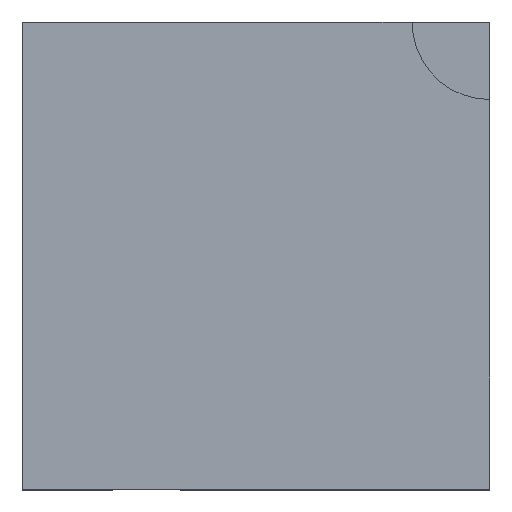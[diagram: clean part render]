
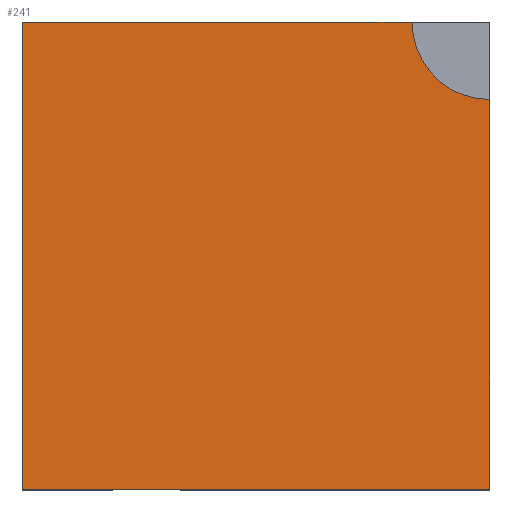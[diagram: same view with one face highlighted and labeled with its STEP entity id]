
A CAD part, top view. The second image highlights one B-rep face of the part: STEP entity #241.
In plain terms, the highlighted planar face has unit normal (0, 0, 1).
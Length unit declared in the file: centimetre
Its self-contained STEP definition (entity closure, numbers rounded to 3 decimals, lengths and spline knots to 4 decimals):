
#28 = CARTESIAN_POINT ( 'NONE',  ( 0., 0., 1000. ) ) ;
#77 = ORIENTED_EDGE ( 'NONE', *, *, #86, .T. ) ;
#86 = EDGE_CURVE ( 'NONE', #1095, #1597, #513, .T. ) ;
#117 = ORIENTED_EDGE ( 'NONE', *, *, #1590, .T. ) ;
#186 = LINE ( 'NONE', #962, #1449 ) ;
#201 = ORIENTED_EDGE ( 'NONE', *, *, #1323, .F. ) ;
#229 = VERTEX_POINT ( 'NONE', #28 ) ;
#241 = ADVANCED_FACE ( 'NONE', ( #543 ), #1603, .T. ) ;
#419 = CARTESIAN_POINT ( 'NONE',  ( 0., 0., 1000. ) ) ;
#436 = DIRECTION ( 'NONE',  ( 0., 0., 1. ) ) ;
#448 = CARTESIAN_POINT ( 'NONE',  ( 0., 1000., 1000. ) ) ;
#493 = CARTESIAN_POINT ( 'NONE',  ( 834.0202, 1000., 1000. ) ) ;
#513 = LINE ( 'NONE', #903, #907 ) ;
#543 = FACE_OUTER_BOUND ( 'NONE', #1371, .T. ) ;
#552 = DIRECTION ( 'NONE',  ( 0., -1., 0. ) ) ;
#580 = DIRECTION ( 'NONE',  ( 1., 0., 0. ) ) ;
#611 = CARTESIAN_POINT ( 'NONE',  ( 1000., 1000., 1000. ) ) ;
#638 = AXIS2_PLACEMENT_3D ( 'NONE', #419, #436, #1073 ) ;
#708 = LINE ( 'NONE', #850, #825 ) ;
#748 = AXIS2_PLACEMENT_3D ( 'NONE', #611, #1132, #1515 ) ;
#771 = CIRCLE ( 'NONE', #748, 165.9798 ) ;
#782 = ORIENTED_EDGE ( 'NONE', *, *, #1020, .T. ) ;
#825 = VECTOR ( 'NONE', #580, 100. ) ;
#850 = CARTESIAN_POINT ( 'NONE',  ( 0., 0., 1000. ) ) ;
#903 = CARTESIAN_POINT ( 'NONE',  ( 1000., 1000., 1000. ) ) ;
#907 = VECTOR ( 'NONE', #1421, 100. ) ;
#952 = CARTESIAN_POINT ( 'NONE',  ( 1000., 0., 1000. ) ) ;
#959 = DIRECTION ( 'NONE',  ( -1., 0., 0. ) ) ;
#962 = CARTESIAN_POINT ( 'NONE',  ( 0., 1000., 1000. ) ) ;
#967 = VERTEX_POINT ( 'NONE', #1195 ) ;
#987 = ORIENTED_EDGE ( 'NONE', *, *, #1219, .T. ) ;
#1020 = EDGE_CURVE ( 'NONE', #967, #229, #186, .T. ) ;
#1073 = DIRECTION ( 'NONE',  ( 1., 0., 0. ) ) ;
#1095 = VERTEX_POINT ( 'NONE', #952 ) ;
#1103 = LINE ( 'NONE', #448, #1557 ) ;
#1132 = DIRECTION ( 'NONE',  ( 0., 0., 1. ) ) ;
#1195 = CARTESIAN_POINT ( 'NONE',  ( 0., 1000., 1000. ) ) ;
#1219 = EDGE_CURVE ( 'NONE', #1349, #967, #1103, .T. ) ;
#1323 = EDGE_CURVE ( 'NONE', #1349, #1597, #771, .T. ) ;
#1349 = VERTEX_POINT ( 'NONE', #493 ) ;
#1354 = CARTESIAN_POINT ( 'NONE',  ( 1000., 834.0202, 1000. ) ) ;
#1371 = EDGE_LOOP ( 'NONE', ( #201, #987, #782, #117, #77 ) ) ;
#1421 = DIRECTION ( 'NONE',  ( 0., 1., 0. ) ) ;
#1449 = VECTOR ( 'NONE', #552, 100. ) ;
#1515 = DIRECTION ( 'NONE',  ( 1., 0., 0. ) ) ;
#1557 = VECTOR ( 'NONE', #959, 100. ) ;
#1590 = EDGE_CURVE ( 'NONE', #229, #1095, #708, .T. ) ;
#1597 = VERTEX_POINT ( 'NONE', #1354 ) ;
#1603 = PLANE ( 'NONE',  #638 ) ;
